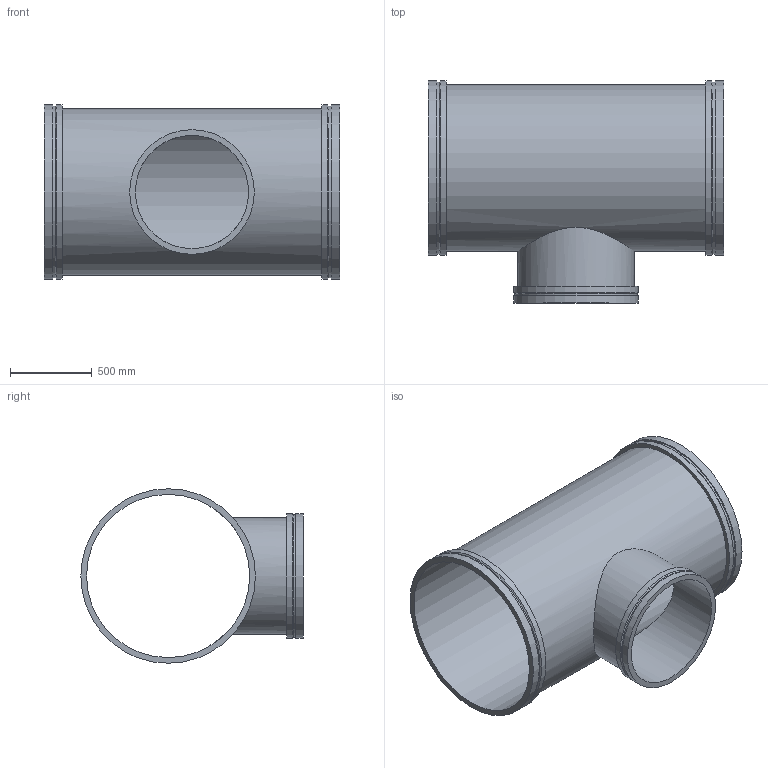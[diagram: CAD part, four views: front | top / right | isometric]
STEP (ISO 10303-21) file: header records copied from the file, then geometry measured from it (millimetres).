
FILE_DESCRIPTION(/* description */ ('VIC REDUCING TEE No W025 VR','CAx-IF Rec.Pracs.---Representation and Presentation of Product Manufacturing Information (PMI)---4.0---2014-10-13'),/* implementation_level */ '2;1');
FILE_NAME(/* name */ 'C:\Users\kkamble\AppData\Roaming\Autodesk\ApplicationPlugins\Back Up\Victaulic_Vic-Ring_Tee Reducing_No W25 VR (AGR)\Victaulic_Vic-Ring_Tee Reducing_No W25 VR (AGR)_40.0x28.0 (1000x700).stp',/* time_stamp */ '2020-09-10T11:55:42+05:00',/* author */ ('mchristi'),/* organization */ ('Victaulic'),/* preprocessor_version */ 'ST-DEVELOPER v17.2',/* originating_system */ 'Autodesk Inventor 2019',/* authorisation */ '');
FILE_SCHEMA (('AP242_MANAGED_MODEL_BASED_3D_ENGINEERING_MIM_LF { 1 0 10303 442 1 1 4 }'));
Length unit declared in the file: inch
Products named in the file (1): W25 VR-40.0x28.0
Bounding box: 1803.4 x 1358.9 x 1066.8 mm (x, y, z)
Volume: 81297785.3 mm3; surface area: 12975946.3 mm2
Topology: 1 solids, 1 shells, 25 faces, 68 edges, 52 vertices
Faces by surface type: cylinder 13, plane 9, cone 3
Full cylindrical faces by diameter (mm): 692.15 x1, 711.2 x1, 747.522 x1, 762 x2, 996.95 x1, 1016 x1, 1050.925 x2, 1066.8 x4
Entity records: 1251 total; most frequent: CARTESIAN_POINT 407, DIRECTION 190, ORIENTED_EDGE 136, AXIS2_PLACEMENT_3D 87, EDGE_CURVE 68, VERTEX_POINT 52, CIRCLE 48, EDGE_LOOP 36
